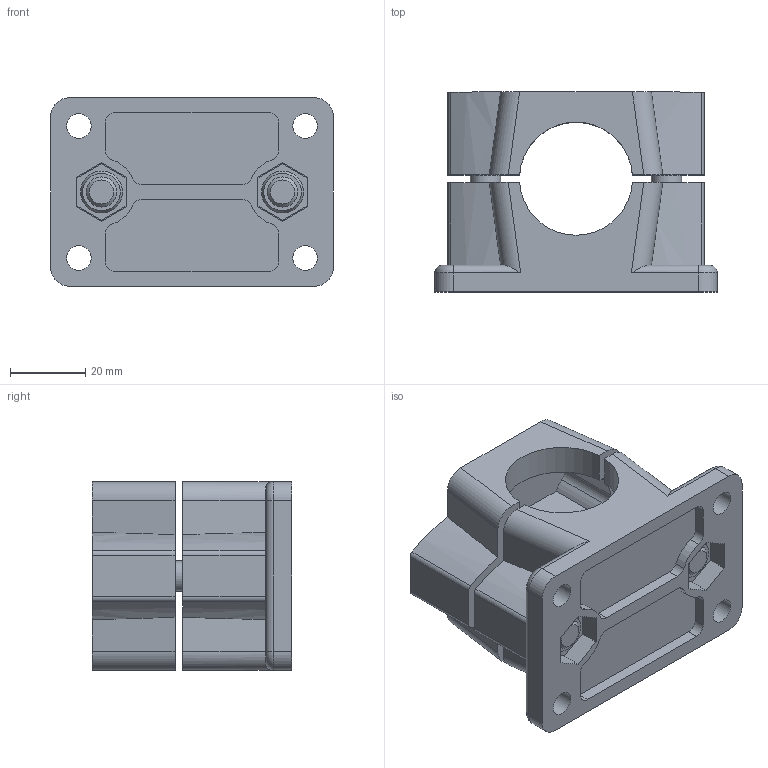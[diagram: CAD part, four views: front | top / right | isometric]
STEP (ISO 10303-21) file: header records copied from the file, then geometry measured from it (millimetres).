
FILE_DESCRIPTION( ( 'STEP AP203' ), '1' );
FILE_NAME( 'C:/Temp/Ganter_Step_05_03_2020/data/3_7/147/Flanged connector clamp GN 147-B30-2-SW.stp', '2020-03-12T14:20:28', ( 'License CC BY-ND 4.0' ), ( 'CADENAS' ), ' ', 'PARTsolutions', ' ' );
FILE_SCHEMA( ( 'CONFIG_CONTROL_DESIGN' ) );
Length unit declared in the file: millimetre
Products named in the file (1): _Flanged connector clamp GN 147-B30-2-SW
Bounding box: 75 x 53 x 50 mm (x, y, z)
Volume: 78786 mm3; surface area: 34545.5 mm2
Topology: 1 solids, 1 shells, 220 faces, 586 edges, 390 vertices
Faces by surface type: plane 119, cylinder 91, torus 6, cone 4
Full cylindrical faces by diameter (mm): 6.5 x4, 8 x4, 8.5 x4, 13 x2
Entity records: 6818 total; most frequent: CARTESIAN_POINT 1217, DIRECTION 1192, ORIENTED_EDGE 1112, EDGE_CURVE 556, AXIS2_PLACEMENT_3D 419, VERTEX_POINT 380, LINE 354, VECTOR 354
